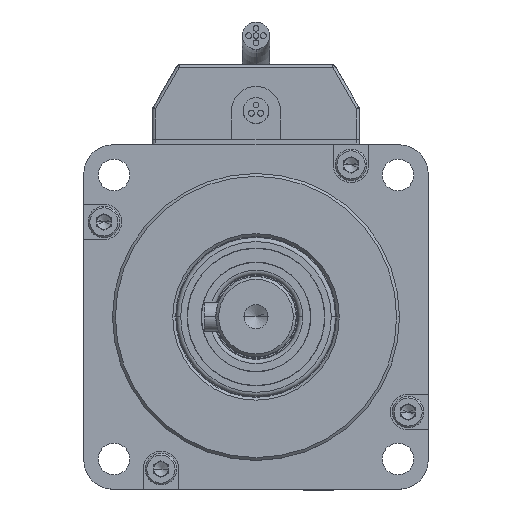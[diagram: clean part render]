
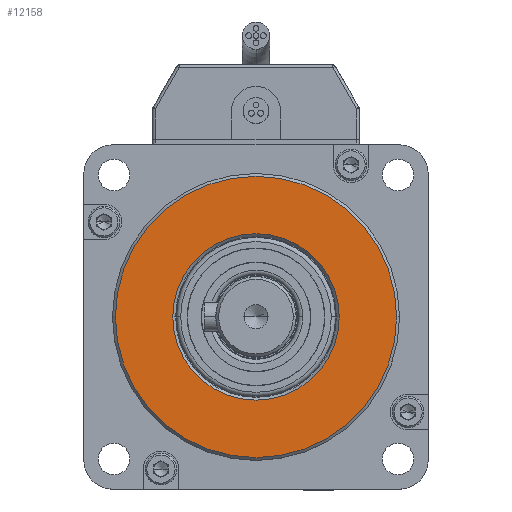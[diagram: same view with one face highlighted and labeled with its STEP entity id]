
A CAD part, top view. The second image highlights one B-rep face of the part: STEP entity #12158.
In plain terms, the highlighted planar face has unit normal (0, 0, 1).
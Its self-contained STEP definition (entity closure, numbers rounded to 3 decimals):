
#24 = VERTEX_POINT ( 'NONE', #9146 ) ;
#45 = DIRECTION ( 'NONE',  ( 1., 0., 0. ) ) ;
#98 = FACE_OUTER_BOUND ( 'NONE', #2992, .T. ) ;
#122 = CARTESIAN_POINT ( 'NONE',  ( 0., 0., 3. ) ) ;
#1643 = AXIS2_PLACEMENT_3D ( 'NONE', #14583, #19697, #16162 ) ;
#1887 = CIRCLE ( 'NONE', #4557, 24.5 ) ;
#2089 = ORIENTED_EDGE ( 'NONE', *, *, #4725, .T. ) ;
#2992 = EDGE_LOOP ( 'NONE', ( #2089, #17112 ) ) ;
#3883 = VERTEX_POINT ( 'NONE', #20407 ) ;
#4557 = AXIS2_PLACEMENT_3D ( 'NONE', #19191, #4718, #11336 ) ;
#4718 = DIRECTION ( 'NONE',  ( 0., 0., 1. ) ) ;
#4725 = EDGE_CURVE ( 'NONE', #8108, #8335, #6900, .T. ) ;
#4768 = EDGE_CURVE ( 'NONE', #8335, #8108, #1887, .T. ) ;
#6307 = DIRECTION ( 'NONE',  ( 0., 0., 1. ) ) ;
#6900 = CIRCLE ( 'NONE', #8260, 24.5 ) ;
#8080 = ORIENTED_EDGE ( 'NONE', *, *, #12465, .T. ) ;
#8108 = VERTEX_POINT ( 'NONE', #18067 ) ;
#8120 = EDGE_LOOP ( 'NONE', ( #14040, #8080 ) ) ;
#8171 = AXIS2_PLACEMENT_3D ( 'NONE', #14778, #16140, #19677 ) ;
#8260 = AXIS2_PLACEMENT_3D ( 'NONE', #122, #6307, #19498 ) ;
#8335 = VERTEX_POINT ( 'NONE', #13848 ) ;
#8500 = EDGE_CURVE ( 'NONE', #3883, #24, #10679, .T. ) ;
#9146 = CARTESIAN_POINT ( 'NONE',  ( -14.5, 0., 3. ) ) ;
#9489 = CARTESIAN_POINT ( 'NONE',  ( 0., 0., 3. ) ) ;
#9746 = PLANE ( 'NONE',  #8171 ) ;
#10679 = CIRCLE ( 'NONE', #1643, 14.5 ) ;
#11336 = DIRECTION ( 'NONE',  ( 1., 0., 0. ) ) ;
#12158 = ADVANCED_FACE ( 'NONE', ( #16441, #98 ), #9746, .T. ) ;
#12465 = EDGE_CURVE ( 'NONE', #24, #3883, #20555, .T. ) ;
#13848 = CARTESIAN_POINT ( 'NONE',  ( 24.5, 0., 3. ) ) ;
#14040 = ORIENTED_EDGE ( 'NONE', *, *, #8500, .T. ) ;
#14583 = CARTESIAN_POINT ( 'NONE',  ( 0., 0., 3. ) ) ;
#14778 = CARTESIAN_POINT ( 'NONE',  ( 0., 0., 3. ) ) ;
#15767 = DIRECTION ( 'NONE',  ( 0., 0., -1. ) ) ;
#16140 = DIRECTION ( 'NONE',  ( 0., 0., 1. ) ) ;
#16162 = DIRECTION ( 'NONE',  ( 1., 0., 0. ) ) ;
#16441 = FACE_BOUND ( 'NONE', #8120, .T. ) ;
#17112 = ORIENTED_EDGE ( 'NONE', *, *, #4768, .T. ) ;
#18067 = CARTESIAN_POINT ( 'NONE',  ( -24.5, 0., 3. ) ) ;
#19191 = CARTESIAN_POINT ( 'NONE',  ( 0., 0., 3. ) ) ;
#19224 = AXIS2_PLACEMENT_3D ( 'NONE', #9489, #15767, #45 ) ;
#19498 = DIRECTION ( 'NONE',  ( 1., 0., 0. ) ) ;
#19677 = DIRECTION ( 'NONE',  ( 1., 0., 0. ) ) ;
#19697 = DIRECTION ( 'NONE',  ( 0., 0., -1. ) ) ;
#20407 = CARTESIAN_POINT ( 'NONE',  ( 14.5, 0., 3. ) ) ;
#20555 = CIRCLE ( 'NONE', #19224, 14.5 ) ;
